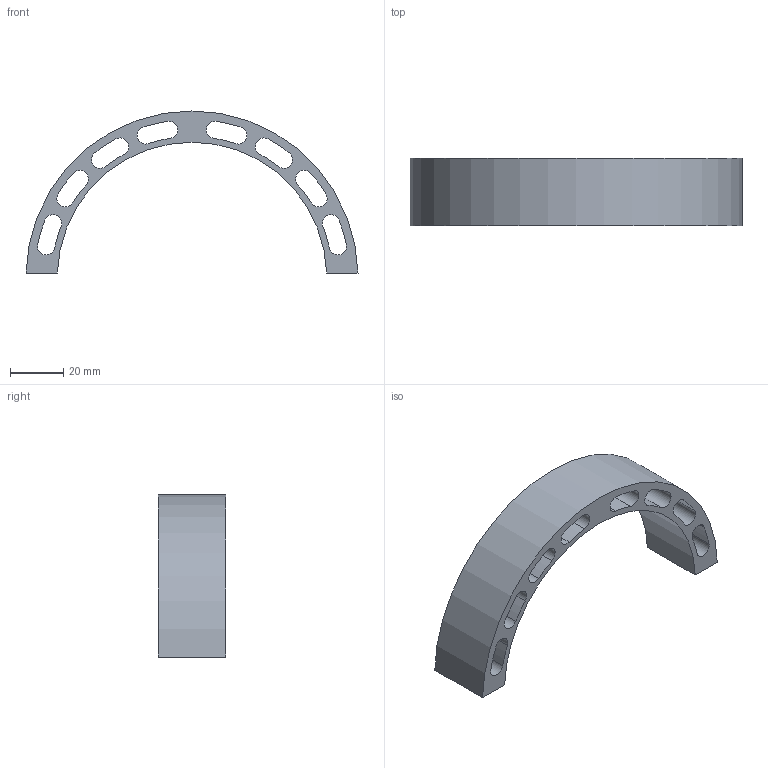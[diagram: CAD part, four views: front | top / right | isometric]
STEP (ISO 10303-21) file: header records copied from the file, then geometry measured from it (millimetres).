
FILE_DESCRIPTION(/* description */ (''),/* implementation_level */ '2;1');
FILE_NAME(/* name */ '2504_ePic_arc_L1_e.stp',/* time_stamp */ '2025-05-05T16:43:43+02:00',/* author */ (''),/* organization */ (''),/* preprocessor_version */ 'ST-DEVELOPER v19.4',/* originating_system */ 'SIEMENS PLM Software NX2306.5001',/* authorisation */ '');
FILE_SCHEMA (('AP203_CONFIGURATION_CONTROLLED_3D_DESIGN_OF_MECHANICAL_PARTS_AND_ASSEMBLIES_MIM_LF { 1 0 10303 403 2 1 2}'));
Length unit declared in the file: millimetre
Products named in the file (1): ePic-L1_FrameFPC-eSide.v5_dwg_objects
Bounding box: 124.76 x 25.4 x 60.9 mm (x, y, z)
Volume: 33519.5 mm3; surface area: 19915.5 mm2
Topology: 1 solids, 1 shells, 38 faces, 108 edges, 72 vertices
Faces by surface type: cylinder 34, plane 4
Entity records: 1398 total; most frequent: DIRECTION 254, CARTESIAN_POINT 219, ORIENTED_EDGE 216, EDGE_CURVE 108, AXIS2_PLACEMENT_3D 107, VERTEX_POINT 72, CIRCLE 68, EDGE_LOOP 54
